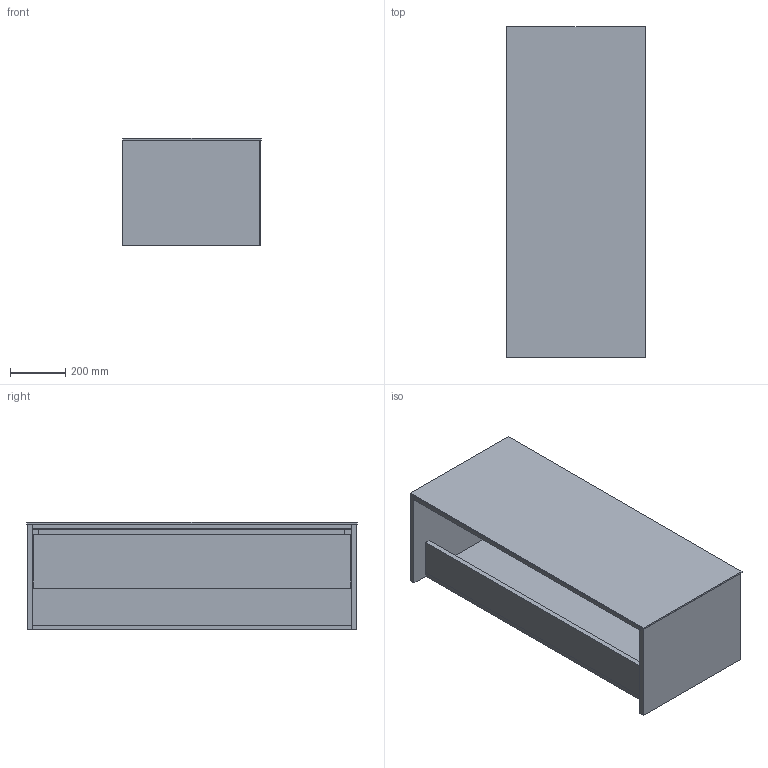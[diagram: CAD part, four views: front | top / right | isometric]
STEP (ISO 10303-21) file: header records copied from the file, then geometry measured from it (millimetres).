
FILE_DESCRIPTION(/* description */ (''),/* implementation_level */ '2;1');
FILE_NAME(/* name */ 'H41x12x',/* time_stamp */ '2025-03-13T09:56:13+01:00',/* author */ (''),/* organization */ (''),/* preprocessor_version */ 'ST-DEVELOPER v16.5',/* originating_system */ 'Rhino 7.38',/* authorisation */ '');
FILE_SCHEMA (('AUTOMOTIVE_DESIGN'));
Length unit declared in the file: centimetre
Products named in the file (1): Document
Bounding box: 504 x 1203 x 390 mm (x, y, z)
Volume: 39726887.8 mm3; surface area: 5843451.9 mm2
Topology: 9 solids, 9 shells, 86 faces, 204 edges, 136 vertices
Faces by surface type: plane 68, cylinder 18
Entity records: 2187 total; most frequent: CARTESIAN_POINT 696, ORIENTED_EDGE 408, EDGE_CURVE 204, B_SPLINE_CURVE_WITH_KNOTS 166, VERTEX_POINT 136, EDGE_LOOP 92, DIRECTION 90, AXIS2_PLACEMENT_3D 88
